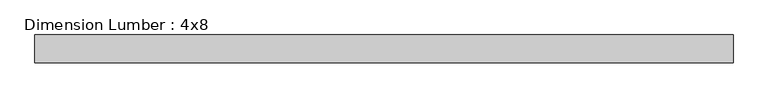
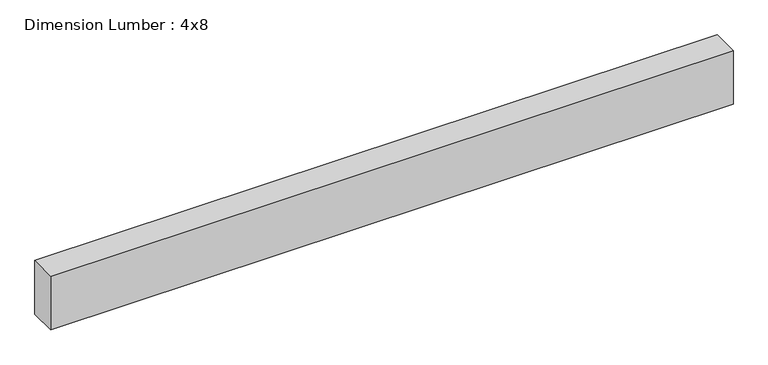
"""IFC4 building model written with IfcOpenShell, lengths in millimetres: beam geometry, Dimension Lumber : 4x8."""

from ifc_helpers import new_model, si_unit, frame, origin, place, context, project, spatial, polyline, outline, extrude, source, transform, mapped, element, save


def dimension_lumber_4x8_ae6d369a(model_context):
    return source(origin(), model_context, "Body", "SweptSolid", [
        extrude(outline(polyline([(1108.085401, 44.45), (1108.085401, -44.45), (-1108.085401, -44.45), (-1108.085401, 44.45), (1108.085401, 44.45)])), frame((0.0, 0.0, -92.075), z_axis=(0.0, 0.0, 1.0), x_axis=(1.0, 0.0, 0.0)), (0.0, 0.0, 1.0), 184.15),
    ])


if __name__ == "__main__":
    model = new_model("IFC4")
    model_context = context("Model", 3, world=origin())
    ifc_project = project(units=[si_unit("LENGTHUNIT", "METRE", prefix="MILLI")], contexts=[model_context])
    site = spatial("IfcSite", under=ifc_project)
    building = spatial("IfcBuilding", under=site)
    placement = place(None, origin())
    dimension_lumber_4x8_shape = dimension_lumber_4x8_ae6d369a(model_context)
    element("IfcBeam", 1, ObjectType="Dimension Lumber : 4x8", at=placement, inside=building, context=model_context, shape_type="MappedRepresentation", body=[
        mapped(dimension_lumber_4x8_shape, transform((0.0, 0.0, 0.0), x_axis=(1.0, 0.0, 0.0), y_axis=(0.0, 1.0, 0.0), z_axis=(0.0, 0.0, 1.0))),
    ])
    save(model, "model.ifc")
